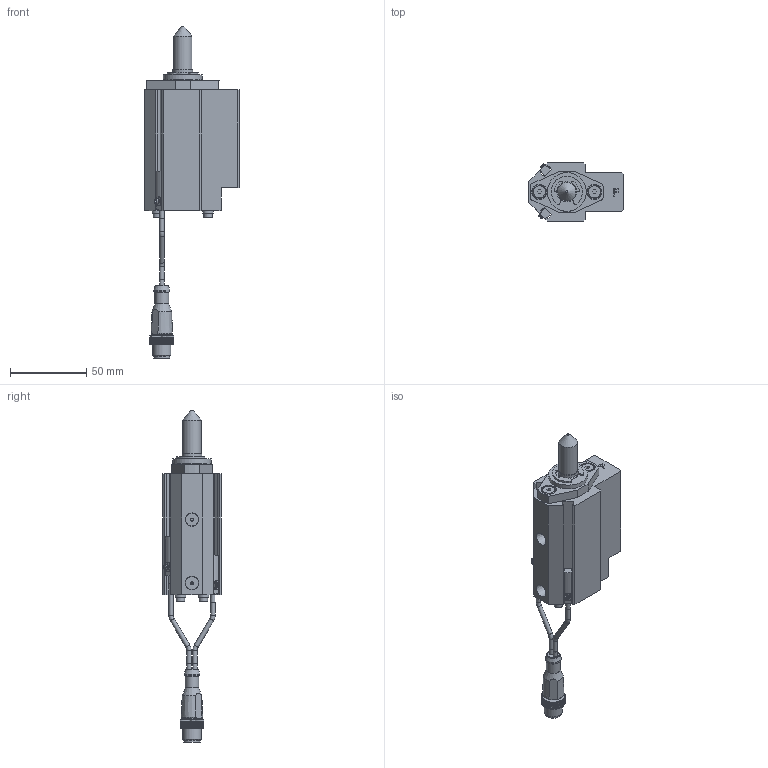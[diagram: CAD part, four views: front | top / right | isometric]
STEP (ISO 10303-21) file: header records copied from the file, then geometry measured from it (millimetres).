
FILE_DESCRIPTION(/* description */ ('NAAMS FLOATING MICRO PIN'),/* implementation_level */ '2;1');
FILE_NAME(/* name */ 'C:\Vault Workspace\CAD\Welker\Shot Pin\NMP\NMP120022AFNL3.stp',/* time_stamp */ '2021-01-27T10:36:47-05:00',/* author */ ('WELKER'),/* organization */ (''),/* preprocessor_version */ 'ST-DEVELOPER v18.1',/* originating_system */ 'Autodesk Inventor 2020',/* authorisation */ '');
FILE_SCHEMA (('AUTOMOTIVE_DESIGN { 1 0 10303 214 3 1 1 }'));
Length unit declared in the file: millimetre
Products named in the file (16): NMPL01; NMP L3 SWITCH; L3 Connector; L3 Sensor 1; L3 Sensor 2; L3 Sensor cable; L3 Sensor cable 2; M3X0.5-8 SHCS; NL3; NMPE06; NMPE03; NMPE05-DIA-LENGTH; 985432A218; NMPE01F-PORT; RMPE02; M5X5 SHOULDER
Assembly tree (22 placements, depth 3):
  NMPL01
    NMP L3 SWITCH
      L3 Connector
      L3 Sensor 1
      L3 Sensor 2
      L3 Sensor cable
      L3 Sensor cable 2
    M3X0.5-8 SHCS  x4
    NL3  x4
    NMPE06
    NMPE03
    NMPE05-DIA-LENGTH
    985432A218
    NMPE01F-PORT
    RMPE02
    M5X5 SHOULDER  x2
Bounding box: 62 x 38.1 x 217.12 mm (x, y, z)
Volume: 114202.3 mm3; surface area: 45230.4 mm2
Topology: 21 solids, 21 shells, 746 faces, 2022 edges, 1352 vertices
Faces by surface type: plane 551, cylinder 144, cone 35, torus 11, sphere 3, bspline 2
Full cylindrical faces by diameter (mm): 2 x2, 2.459 x4, 2.9 x10, 3 x5, 3.242 x2, 3.4 x4, 4 x2, 5 x6, 5.5 x4, 7 x4, 8 x2, 8.3 x2, 8.376 x2, 9 x3, 10 x3, 10.4 x1, 10.5 x1, 12 x2, 13 x3, 16 x2, 19.05 x3, 21 x1, 22.5 x1, 23.672 x1, 24 x1, 25.4 x1, 25.5 x1, 26.5 x1, 28.677 x1, 29.21 x1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
Entity records: 22784 total; most frequent: CARTESIAN_POINT 4167, ORIENTED_EDGE 3738, DIRECTION 3725, EDGE_CURVE 1869, LINE 1381, VECTOR 1381, VERTEX_POINT 1257, AXIS2_PLACEMENT_3D 1172
